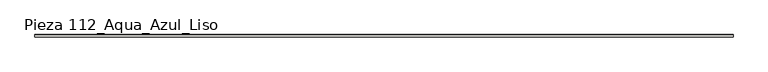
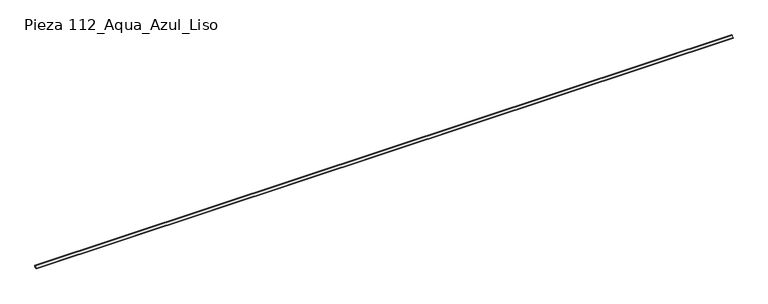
"""IFC4 building model written with IfcOpenShell, lengths in millimetres: slab geometry, ROSA GRES_112 : Pieza 112_Aqua_Azul_Liso."""

from ifc_helpers import new_model, si_unit, point, frame, frame_2d, origin, place, context, project, spatial, polyline, circle_curve, trimmed, segment, composite_curve, outline, extrude, source, transform, mapped, element, save


def pieza_112_aqua_azul_liso_735dd935(model_context):
    return source(origin(), model_context, "Body", "SweptSolid", [
        extrude(outline(composite_curve([segment(polyline([(0.0, 8.7114978), (-8.7114978, 0.0), (-40.0, 0.0), (-40.0, 9.9734114)]), True, "CONTINUOUS"), segment(trimmed(circle_curve(frame_2d((-39.9955547, 39.9955547)), 30.0221435), [point((-40.0, 9.9734114))], [point((-9.9734114, 40.0))], True, "CARTESIAN"), True, "CONTINUOUS"), segment(polyline([(-9.9734114, 40.0), (0.0, 40.0), (0.0, 8.7114978)]), True, "CONTINUOUS")], self_intersect=False)), frame((0.0, 0.0, 0.0), z_axis=(1.0, 0.0, 0.0), x_axis=(0.0, 1.0, 0.0)), (0.0, 0.0, 1.0), 11874.998671),
    ])


if __name__ == "__main__":
    model = new_model("IFC4")
    model_context = context("Model", 3, world=origin())
    ifc_project = project(units=[si_unit("LENGTHUNIT", "METRE", prefix="MILLI")], contexts=[model_context])
    site = spatial("IfcSite", under=ifc_project)
    building = spatial("IfcBuilding", under=site)
    placement = place(None, origin())
    pieza_112_aqua_azul_liso_shape = pieza_112_aqua_azul_liso_735dd935(model_context)
    element("IfcSlab", 1, ObjectType="ROSA GRES_112 : Pieza 112_Aqua_Azul_Liso", at=placement, inside=building, context=model_context, shape_type="MappedRepresentation", body=[
        mapped(pieza_112_aqua_azul_liso_shape, transform((0.0, 0.0, 0.0), x_axis=(1.0, 0.0, 0.0), y_axis=(0.0, 1.0, 0.0), z_axis=(0.0, 0.0, 1.0))),
    ])
    save(model, "model.ifc")
